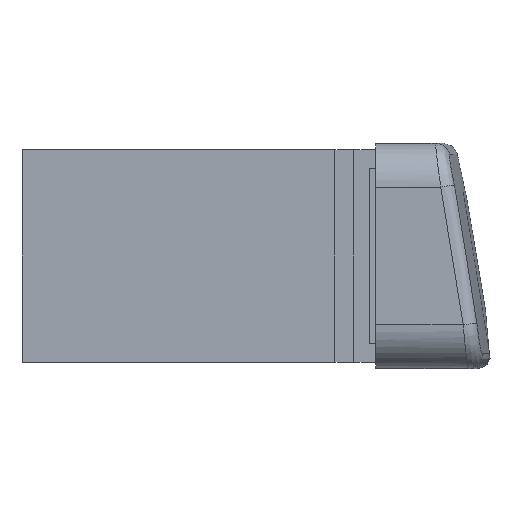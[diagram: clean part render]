
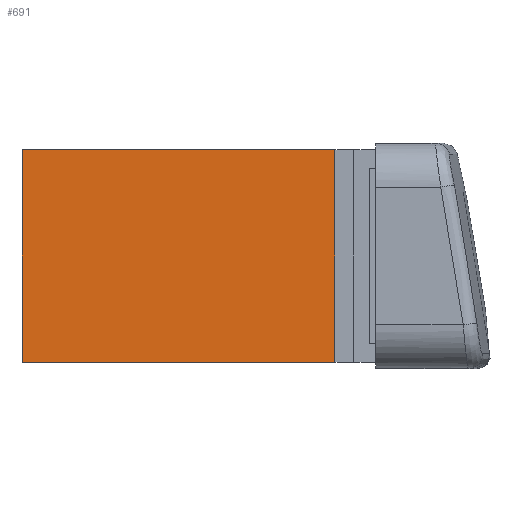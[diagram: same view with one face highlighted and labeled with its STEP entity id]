
A CAD part, front view. The second image highlights one B-rep face of the part: STEP entity #691.
In plain terms, the highlighted planar face has unit normal (0, -1, 0).
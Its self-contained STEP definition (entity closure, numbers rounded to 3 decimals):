
#85 = VERTEX_POINT('',#86);
#86 = CARTESIAN_POINT('',(30.449,59.4,13.8));
#100 = PLANE('',#101);
#101 = AXIS2_PLACEMENT_3D('',#102,#103,#104);
#102 = CARTESIAN_POINT('',(31.549,59.4,13.8));
#103 = DIRECTION('',(-0.,1.,0.));
#104 = DIRECTION('',(0.,0.,-1.));
#126 = PLANE('',#127);
#127 = AXIS2_PLACEMENT_3D('',#128,#129,#130);
#128 = CARTESIAN_POINT('',(31.549,59.4,13.8));
#129 = DIRECTION('',(0.,0.,1.));
#130 = DIRECTION('',(1.,0.,0.));
#251 = EDGE_CURVE('',#85,#252,#254,.T.);
#252 = VERTEX_POINT('',#253);
#253 = CARTESIAN_POINT('',(25.449,59.4,13.8));
#254 = SURFACE_CURVE('',#255,(#259,#266),.PCURVE_S1.);
#255 = LINE('',#256,#257);
#256 = CARTESIAN_POINT('',(31.549,59.4,13.8));
#257 = VECTOR('',#258,1.);
#258 = DIRECTION('',(-1.,-0.,0.));
#259 = PCURVE('',#126,#260);
#260 = DEFINITIONAL_REPRESENTATION('',(#261),#265);
#261 = LINE('',#262,#263);
#262 = CARTESIAN_POINT('',(0.,-0.));
#263 = VECTOR('',#264,1.);
#264 = DIRECTION('',(-1.,0.));
#265 = ( GEOMETRIC_REPRESENTATION_CONTEXT(2) 
PARAMETRIC_REPRESENTATION_CONTEXT() REPRESENTATION_CONTEXT('2D SPACE',''
  ) );
#266 = PCURVE('',#267,#272);
#267 = PLANE('',#268);
#268 = AXIS2_PLACEMENT_3D('',#269,#270,#271);
#269 = CARTESIAN_POINT('',(31.549,59.4,13.8));
#270 = DIRECTION('',(-0.,1.,0.));
#271 = DIRECTION('',(0.,0.,-1.));
#272 = DEFINITIONAL_REPRESENTATION('',(#273),#277);
#273 = LINE('',#274,#275);
#274 = CARTESIAN_POINT('',(-0.,-0.));
#275 = VECTOR('',#276,1.);
#276 = DIRECTION('',(-0.,1.));
#277 = ( GEOMETRIC_REPRESENTATION_CONTEXT(2) 
PARAMETRIC_REPRESENTATION_CONTEXT() REPRESENTATION_CONTEXT('2D SPACE',''
  ) );
#293 = PLANE('',#294);
#294 = AXIS2_PLACEMENT_3D('',#295,#296,#297);
#295 = CARTESIAN_POINT('',(25.449,59.4,13.8));
#296 = DIRECTION('',(-1.,-0.,0.));
#297 = DIRECTION('',(0.,0.,-1.));
#373 = VERTEX_POINT('',#374);
#374 = CARTESIAN_POINT('',(30.449,59.4,17.2));
#395 = EDGE_CURVE('',#85,#373,#396,.T.);
#396 = SURFACE_CURVE('',#397,(#401,#408),.PCURVE_S1.);
#397 = LINE('',#398,#399);
#398 = CARTESIAN_POINT('',(30.449,59.4,13.8));
#399 = VECTOR('',#400,1.);
#400 = DIRECTION('',(0.,0.,1.));
#401 = PCURVE('',#100,#402);
#402 = DEFINITIONAL_REPRESENTATION('',(#403),#407);
#403 = LINE('',#404,#405);
#404 = CARTESIAN_POINT('',(-0.,1.1));
#405 = VECTOR('',#406,1.);
#406 = DIRECTION('',(-1.,-0.));
#407 = ( GEOMETRIC_REPRESENTATION_CONTEXT(2) 
PARAMETRIC_REPRESENTATION_CONTEXT() REPRESENTATION_CONTEXT('2D SPACE',''
  ) );
#408 = PCURVE('',#267,#409);
#409 = DEFINITIONAL_REPRESENTATION('',(#410),#414);
#410 = LINE('',#411,#412);
#411 = CARTESIAN_POINT('',(-0.,1.1));
#412 = VECTOR('',#413,1.);
#413 = DIRECTION('',(-1.,-0.));
#414 = ( GEOMETRIC_REPRESENTATION_CONTEXT(2) 
PARAMETRIC_REPRESENTATION_CONTEXT() REPRESENTATION_CONTEXT('2D SPACE',''
  ) );
#511 = PLANE('',#512);
#512 = AXIS2_PLACEMENT_3D('',#513,#514,#515);
#513 = CARTESIAN_POINT('',(31.549,59.4,17.2));
#514 = DIRECTION('',(0.,0.,1.));
#515 = DIRECTION('',(1.,0.,0.));
#646 = EDGE_CURVE('',#252,#647,#649,.T.);
#647 = VERTEX_POINT('',#648);
#648 = CARTESIAN_POINT('',(25.449,59.4,17.2));
#649 = SURFACE_CURVE('',#650,(#654,#661),.PCURVE_S1.);
#650 = LINE('',#651,#652);
#651 = CARTESIAN_POINT('',(25.449,59.4,13.8));
#652 = VECTOR('',#653,1.);
#653 = DIRECTION('',(0.,0.,1.));
#654 = PCURVE('',#293,#655);
#655 = DEFINITIONAL_REPRESENTATION('',(#656),#660);
#656 = LINE('',#657,#658);
#657 = CARTESIAN_POINT('',(-0.,-0.));
#658 = VECTOR('',#659,1.);
#659 = DIRECTION('',(-1.,-0.));
#660 = ( GEOMETRIC_REPRESENTATION_CONTEXT(2) 
PARAMETRIC_REPRESENTATION_CONTEXT() REPRESENTATION_CONTEXT('2D SPACE',''
  ) );
#661 = PCURVE('',#267,#662);
#662 = DEFINITIONAL_REPRESENTATION('',(#663),#667);
#663 = LINE('',#664,#665);
#664 = CARTESIAN_POINT('',(-0.,6.1));
#665 = VECTOR('',#666,1.);
#666 = DIRECTION('',(-1.,0.));
#667 = ( GEOMETRIC_REPRESENTATION_CONTEXT(2) 
PARAMETRIC_REPRESENTATION_CONTEXT() REPRESENTATION_CONTEXT('2D SPACE',''
  ) );
#691 = ADVANCED_FACE('',(#692),#267,.F.);
#692 = FACE_BOUND('',#693,.T.);
#693 = EDGE_LOOP('',(#694,#695,#696,#717));
#694 = ORIENTED_EDGE('',*,*,#251,.F.);
#695 = ORIENTED_EDGE('',*,*,#395,.T.);
#696 = ORIENTED_EDGE('',*,*,#697,.T.);
#697 = EDGE_CURVE('',#373,#647,#698,.T.);
#698 = SURFACE_CURVE('',#699,(#703,#710),.PCURVE_S1.);
#699 = LINE('',#700,#701);
#700 = CARTESIAN_POINT('',(31.549,59.4,17.2));
#701 = VECTOR('',#702,1.);
#702 = DIRECTION('',(-1.,-0.,0.));
#703 = PCURVE('',#267,#704);
#704 = DEFINITIONAL_REPRESENTATION('',(#705),#709);
#705 = LINE('',#706,#707);
#706 = CARTESIAN_POINT('',(-3.4,-0.));
#707 = VECTOR('',#708,1.);
#708 = DIRECTION('',(-0.,1.));
#709 = ( GEOMETRIC_REPRESENTATION_CONTEXT(2) 
PARAMETRIC_REPRESENTATION_CONTEXT() REPRESENTATION_CONTEXT('2D SPACE',''
  ) );
#710 = PCURVE('',#511,#711);
#711 = DEFINITIONAL_REPRESENTATION('',(#712),#716);
#712 = LINE('',#713,#714);
#713 = CARTESIAN_POINT('',(0.,-0.));
#714 = VECTOR('',#715,1.);
#715 = DIRECTION('',(-1.,0.));
#716 = ( GEOMETRIC_REPRESENTATION_CONTEXT(2) 
PARAMETRIC_REPRESENTATION_CONTEXT() REPRESENTATION_CONTEXT('2D SPACE',''
  ) );
#717 = ORIENTED_EDGE('',*,*,#646,.F.);
